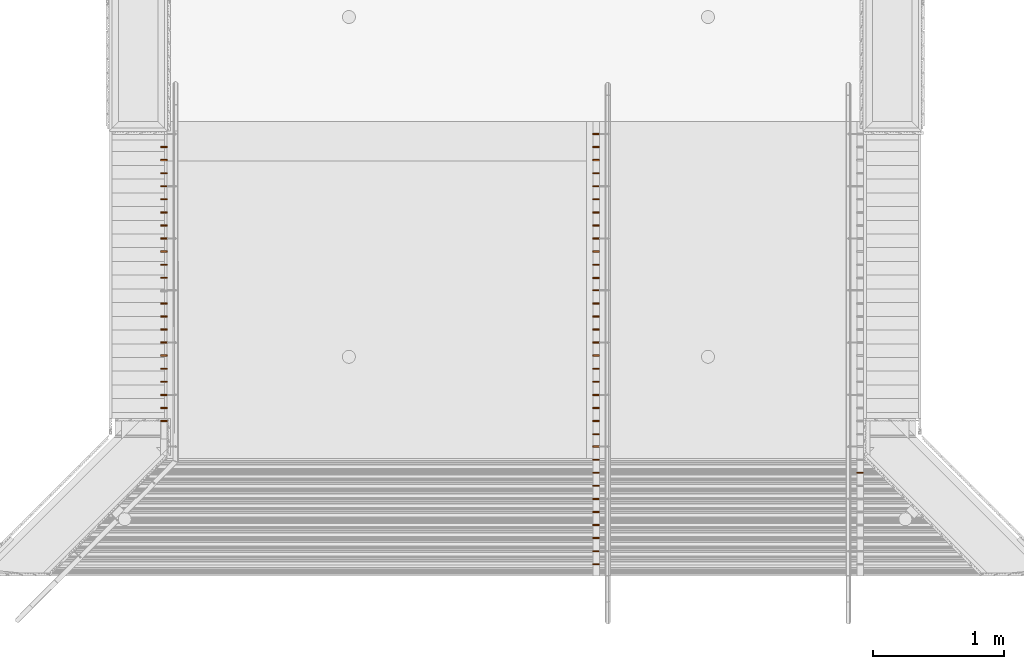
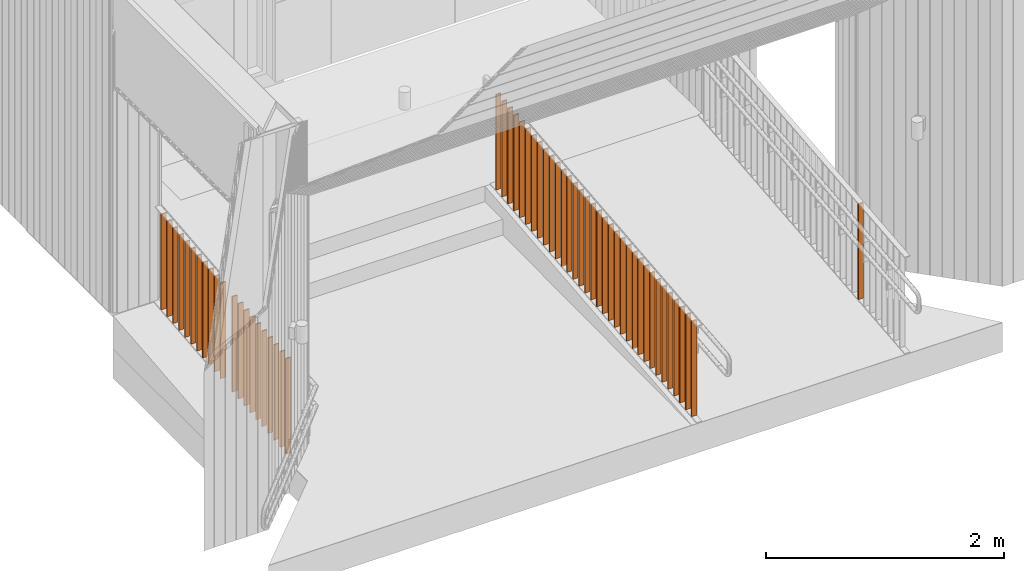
# One storey, part 361 of 418: 56 proxies, 3 elements without a shape of their own.
"""IFC2X3 building model written with IfcOpenShell, lengths in millimetres."""

from ifc_helpers import new_model, entity, si_unit, converted_unit, derived_unit, money_unit, direction, frame, origin_with_axes, place, context, subcontext, project, spatial, faceted_brep, source, transform, mapped, material, type_object, element, aggregate, save


model = new_model("IFC2X3")

# Units and contexts
model_context = context("Model", 3, precision=0.01, world=origin_with_axes(), true_north=direction((0.0, 1.0)))
body_context = subcontext(model_context, "Body", "Model", "MODEL_VIEW")
ifc_project = project(units=[si_unit("LENGTHUNIT", "METRE", prefix="MILLI"), si_unit("AREAUNIT", "SQUARE_METRE"), si_unit("VOLUMEUNIT", "CUBIC_METRE"), converted_unit("PLANEANGLEUNIT", "DEGREE", entity("IfcPlaneAngleMeasure", 0.0174532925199), si_unit("PLANEANGLEUNIT", "RADIAN"), dimensions=[0, 0, 0, 0, 0, 0, 0]), si_unit("SOLIDANGLEUNIT", "STERADIAN"), money_unit("EUR"), converted_unit("TIMEUNIT", "Year", entity("IfcTimeMeasure", 31556926.0), si_unit("TIMEUNIT", "SECOND"), dimensions=[0, 0, 1, 0, 0, 0, 0]), si_unit("MASSUNIT", "GRAM", prefix="KILO"), si_unit("THERMODYNAMICTEMPERATUREUNIT", "DEGREE_CELSIUS"), si_unit("LUMINOUSINTENSITYUNIT", "LUMEN"), si_unit("ENERGYUNIT", "JOULE", prefix="MEGA"), derived_unit("THERMALCONDUCTANCEUNIT", [(si_unit("POWERUNIT", "WATT"), 1), (si_unit("LENGTHUNIT", "METRE"), -1), (si_unit("THERMODYNAMICTEMPERATUREUNIT", "KELVIN"), -1)]), derived_unit("SPECIFICHEATCAPACITYUNIT", [(si_unit("ENERGYUNIT", "JOULE"), 1), (si_unit("MASSUNIT", "GRAM", prefix="KILO"), -1), (si_unit("THERMODYNAMICTEMPERATUREUNIT", "KELVIN"), -1)]), derived_unit("MASSDENSITYUNIT", [(si_unit("MASSUNIT", "GRAM", prefix="KILO"), 1), (si_unit("VOLUMEUNIT", "CUBIC_METRE"), -1)])], contexts=[model_context])

# Site, building, storey
site_placement = place(None, origin_with_axes())
site = spatial("IfcSite", under=ifc_project, at=site_placement, Name="Paldiski mnt 245/1, Tallinn, Harjumaa", CompositionType="COMPLEX")
building_placement = place(site_placement, origin_with_axes())
building = spatial("IfcBuilding", under=site, at=building_placement, Name="RKAS Hoone üldnimetus (kasutust iseloomustav) -> IFC Project Manager -> SOLIBRI", CompositionType="ELEMENT")
storey_placement = place(building_placement, origin_with_axes())
storey = spatial("IfcBuildingStorey", under=building, at=storey_placement, Name="Esimene korrus", CompositionType="ELEMENT", Elevation=0.0)

# Proxies
building_element_proxy_type_1 = type_object("IfcBuildingElementProxyType", Name="Railing Type", PredefinedType="NOTDEFINED")
proxy_1_placement = place(storey_placement, frame((-38790.9992191, -15230.0843011, -367.539728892), z_axis=(0.0, 0.0, 1.0), x_axis=(-0.773149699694, -0.634223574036, 0.0)))
proxy_1 = element("IfcBuildingElementProxy", 1, at=proxy_1_placement, inside=storey, type_object=building_element_proxy_type_1, Name="Trepipiire")
ifc_material = material(Name="RAL7016")
building_element_proxy_type_2 = type_object("IfcBuildingElementProxyType", Name="IfcBuildingElementProxy", PredefinedType="NOTDEFINED")
shared_shape_1 = source(origin_with_axes(), body_context, "Body", "Brep", [
    faceted_brep([(25.0, 5.0, -0.500000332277), (-25.0, 5.0, -0.500000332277), (-25.0, 5.0, 979.983322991), (25.0, 5.0, 979.983322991), (25.0, -5.0, 0.500000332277), (-25.0, -5.0, 0.500000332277), (-25.0, -5.0, 980.983323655), (25.0, -5.0, 980.983323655)], [[[0, 1, 2, 3]], [[0, 4, 5, 1]], [[1, 5, 6, 2]], [[3, 2, 6, 7]], [[4, 0, 3, 7]], [[5, 4, 7, 6]]]),
])
proxy_2_placement = place(proxy_1_placement, frame((1723.48748593, 2061.59765373, 88.3562270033), z_axis=(0.0, 0.0, 1.0), x_axis=(-0.773149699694, 0.634223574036, 0.0)))
proxy_2 = element("IfcBuildingElementProxy", 2, at=proxy_2_placement, type_object=building_element_proxy_type_2, material=ifc_material, Name="SISEPOST - 001", context=body_context, shape_type="MappedRepresentation", body=[
    mapped(shared_shape_1, transform((0.0, 0.0, 0.0), x_axis=(-1.0, 0.0, 0.0), y_axis=(0.0, -1.0, 0.0), z_axis=(0.0, 0.0, 1.0))),
])
aggregate(proxy_1, [proxy_2])

proxy_3_placement = place(storey_placement, frame((-40861.8703625, -15230.0843011, -367.539728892), z_axis=(0.0, 0.0, 1.0), x_axis=(0.773149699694, 0.634223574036, 0.0)))
proxy_3 = element("IfcBuildingElementProxy", 3, at=proxy_3_placement, inside=storey, type_object=building_element_proxy_type_1, Name="Trepipiire")
shared_shape_2 = source(origin_with_axes(), body_context, "Body", "Brep", [
    faceted_brep([(25.0, 5.0, -0.500000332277), (-25.0, 5.0, -0.500000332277), (-25.0, 5.0, 979.983322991), (25.0, 5.0, 979.983322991), (25.0, -5.0, 0.500000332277), (-25.0, -5.0, 0.500000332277), (-25.0, -5.0, 980.983323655), (25.0, -5.0, 980.983323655)], [[[0, 1, 2, 3]], [[0, 4, 5, 1]], [[1, 5, 6, 2]], [[3, 2, 6, 7]], [[4, 0, 3, 7]], [[5, 4, 7, 6]]]),
])
proxy_4_placement = place(proxy_3_placement, frame((-40.9224970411, -89.3048108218, 347.556399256), z_axis=(0.0, 0.0, 1.0), x_axis=(0.773149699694, -0.634223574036, 0.0)))
proxy_4 = element("IfcBuildingElementProxy", 4, at=proxy_4_placement, type_object=building_element_proxy_type_2, material=ifc_material, Name="SISEPOST - 001", context=body_context, shape_type="MappedRepresentation", body=[
    mapped(shared_shape_2, transform((0.0, 0.0, 0.0), x_axis=(-1.0, 0.0, 0.0), y_axis=(0.0, -1.0, 0.0), z_axis=(0.0, 0.0, 1.0))),
])
proxy_5_placement = place(proxy_3_placement, frame((-104.344854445, -166.619780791, 337.55639261), z_axis=(0.0, 0.0, 1.0), x_axis=(0.773149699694, -0.634223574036, 0.0)))
proxy_5 = element("IfcBuildingElementProxy", 5, at=proxy_5_placement, type_object=building_element_proxy_type_2, material=ifc_material, Name="SISEPOST - 001", context=body_context, shape_type="MappedRepresentation", body=[
    mapped(shared_shape_2, transform((0.0, 0.0, 0.0), x_axis=(-1.0, 0.0, 0.0), y_axis=(0.0, -1.0, 0.0), z_axis=(0.0, 0.0, 1.0))),
])
proxy_6_placement = place(proxy_3_placement, frame((-167.767211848, -243.934750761, 327.556385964), z_axis=(0.0, 0.0, 1.0), x_axis=(0.773149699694, -0.634223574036, 0.0)))
proxy_6 = element("IfcBuildingElementProxy", 6, at=proxy_6_placement, type_object=building_element_proxy_type_2, material=ifc_material, Name="SISEPOST - 001", context=body_context, shape_type="MappedRepresentation", body=[
    mapped(shared_shape_2, transform((0.0, 0.0, 0.0), x_axis=(-1.0, 0.0, 0.0), y_axis=(0.0, -1.0, 0.0), z_axis=(0.0, 0.0, 1.0))),
])
proxy_7_placement = place(proxy_3_placement, frame((-231.189569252, -321.24972073, 317.556379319), z_axis=(0.0, 0.0, 1.0), x_axis=(0.773149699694, -0.634223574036, 0.0)))
proxy_7 = element("IfcBuildingElementProxy", 7, at=proxy_7_placement, type_object=building_element_proxy_type_2, material=ifc_material, Name="SISEPOST - 001", context=body_context, shape_type="MappedRepresentation", body=[
    mapped(shared_shape_2, transform((0.0, 0.0, 0.0), x_axis=(-1.0, 0.0, 0.0), y_axis=(0.0, -1.0, 0.0), z_axis=(0.0, 0.0, 1.0))),
])
proxy_8_placement = place(proxy_3_placement, frame((-294.611926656, -398.564690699, 307.556372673), z_axis=(0.0, 0.0, 1.0), x_axis=(0.773149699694, -0.634223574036, 0.0)))
proxy_8 = element("IfcBuildingElementProxy", 8, at=proxy_8_placement, type_object=building_element_proxy_type_2, material=ifc_material, Name="SISEPOST - 001", context=body_context, shape_type="MappedRepresentation", body=[
    mapped(shared_shape_2, transform((0.0, 0.0, 0.0), x_axis=(-1.0, 0.0, 0.0), y_axis=(0.0, -1.0, 0.0), z_axis=(0.0, 0.0, 1.0))),
])
proxy_9_placement = place(proxy_3_placement, frame((-358.034284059, -475.879660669, 297.556366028), z_axis=(0.0, 0.0, 1.0), x_axis=(0.773149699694, -0.634223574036, 0.0)))
proxy_9 = element("IfcBuildingElementProxy", 9, at=proxy_9_placement, type_object=building_element_proxy_type_2, material=ifc_material, Name="SISEPOST - 001", context=body_context, shape_type="MappedRepresentation", body=[
    mapped(shared_shape_2, transform((0.0, 0.0, 0.0), x_axis=(-1.0, 0.0, 0.0), y_axis=(0.0, -1.0, 0.0), z_axis=(0.0, 0.0, 1.0))),
])
proxy_10_placement = place(proxy_3_placement, frame((-421.456641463, -553.194630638, 287.556359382), z_axis=(0.0, 0.0, 1.0), x_axis=(0.773149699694, -0.634223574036, 0.0)))
proxy_10 = element("IfcBuildingElementProxy", 10, at=proxy_10_placement, type_object=building_element_proxy_type_2, material=ifc_material, Name="SISEPOST - 001", context=body_context, shape_type="MappedRepresentation", body=[
    mapped(shared_shape_2, transform((0.0, 0.0, 0.0), x_axis=(-1.0, 0.0, 0.0), y_axis=(0.0, -1.0, 0.0), z_axis=(0.0, 0.0, 1.0))),
])
proxy_11_placement = place(proxy_3_placement, frame((-484.878998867, -630.509600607, 277.556352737), z_axis=(0.0, 0.0, 1.0), x_axis=(0.773149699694, -0.634223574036, 0.0)))
proxy_11 = element("IfcBuildingElementProxy", 11, at=proxy_11_placement, type_object=building_element_proxy_type_2, material=ifc_material, Name="SISEPOST - 001", context=body_context, shape_type="MappedRepresentation", body=[
    mapped(shared_shape_2, transform((0.0, 0.0, 0.0), x_axis=(-1.0, 0.0, 0.0), y_axis=(0.0, -1.0, 0.0), z_axis=(0.0, 0.0, 1.0))),
])
proxy_12_placement = place(proxy_3_placement, frame((-548.30135627, -707.824570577, 267.556346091), z_axis=(0.0, 0.0, 1.0), x_axis=(0.773149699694, -0.634223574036, 0.0)))
proxy_12 = element("IfcBuildingElementProxy", 12, at=proxy_12_placement, type_object=building_element_proxy_type_2, material=ifc_material, Name="SISEPOST - 001", context=body_context, shape_type="MappedRepresentation", body=[
    mapped(shared_shape_2, transform((0.0, 0.0, 0.0), x_axis=(-1.0, 0.0, 0.0), y_axis=(0.0, -1.0, 0.0), z_axis=(0.0, 0.0, 1.0))),
])
proxy_13_placement = place(proxy_3_placement, frame((-611.723713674, -785.139540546, 257.556339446), z_axis=(0.0, 0.0, 1.0), x_axis=(0.773149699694, -0.634223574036, 0.0)))
proxy_13 = element("IfcBuildingElementProxy", 13, at=proxy_13_placement, type_object=building_element_proxy_type_2, material=ifc_material, Name="SISEPOST - 001", context=body_context, shape_type="MappedRepresentation", body=[
    mapped(shared_shape_2, transform((0.0, 0.0, 0.0), x_axis=(-1.0, 0.0, 0.0), y_axis=(0.0, -1.0, 0.0), z_axis=(0.0, 0.0, 1.0))),
])
proxy_14_placement = place(proxy_3_placement, frame((-675.146071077, -862.454510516, 247.5563328), z_axis=(0.0, 0.0, 1.0), x_axis=(0.773149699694, -0.634223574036, 0.0)))
proxy_14 = element("IfcBuildingElementProxy", 14, at=proxy_14_placement, type_object=building_element_proxy_type_2, material=ifc_material, Name="SISEPOST - 001", context=body_context, shape_type="MappedRepresentation", body=[
    mapped(shared_shape_2, transform((0.0, 0.0, 0.0), x_axis=(-1.0, 0.0, 0.0), y_axis=(0.0, -1.0, 0.0), z_axis=(0.0, 0.0, 1.0))),
])
proxy_15_placement = place(proxy_3_placement, frame((-799.453891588, -1013.99185166, 227.956319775), z_axis=(0.0, 0.0, 1.0), x_axis=(0.773149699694, -0.634223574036, 0.0)))
proxy_15 = element("IfcBuildingElementProxy", 15, at=proxy_15_placement, type_object=building_element_proxy_type_2, material=ifc_material, Name="SISEPOST - 001", context=body_context, shape_type="MappedRepresentation", body=[
    mapped(shared_shape_2, transform((0.0, 0.0, 0.0), x_axis=(-1.0, 0.0, 0.0), y_axis=(0.0, -1.0, 0.0), z_axis=(0.0, 0.0, 1.0))),
])
proxy_16_placement = place(proxy_3_placement, frame((-862.876248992, -1091.30682163, 217.956313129), z_axis=(0.0, 0.0, 1.0), x_axis=(0.773149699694, -0.634223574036, 0.0)))
proxy_16 = element("IfcBuildingElementProxy", 16, at=proxy_16_placement, type_object=building_element_proxy_type_2, material=ifc_material, Name="SISEPOST - 001", context=body_context, shape_type="MappedRepresentation", body=[
    mapped(shared_shape_2, transform((0.0, 0.0, 0.0), x_axis=(-1.0, 0.0, 0.0), y_axis=(0.0, -1.0, 0.0), z_axis=(0.0, 0.0, 1.0))),
])
proxy_17_placement = place(proxy_3_placement, frame((-926.298606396, -1168.62179159, 207.956306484), z_axis=(0.0, 0.0, 1.0), x_axis=(0.773149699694, -0.634223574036, 0.0)))
proxy_17 = element("IfcBuildingElementProxy", 17, at=proxy_17_placement, type_object=building_element_proxy_type_2, material=ifc_material, Name="SISEPOST - 001", context=body_context, shape_type="MappedRepresentation", body=[
    mapped(shared_shape_2, transform((0.0, 0.0, 0.0), x_axis=(-1.0, 0.0, 0.0), y_axis=(0.0, -1.0, 0.0), z_axis=(0.0, 0.0, 1.0))),
])
proxy_18_placement = place(proxy_3_placement, frame((-989.720963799, -1245.93676156, 197.956299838), z_axis=(0.0, 0.0, 1.0), x_axis=(0.773149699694, -0.634223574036, 0.0)))
proxy_18 = element("IfcBuildingElementProxy", 18, at=proxy_18_placement, type_object=building_element_proxy_type_2, material=ifc_material, Name="SISEPOST - 001", context=body_context, shape_type="MappedRepresentation", body=[
    mapped(shared_shape_2, transform((0.0, 0.0, 0.0), x_axis=(-1.0, 0.0, 0.0), y_axis=(0.0, -1.0, 0.0), z_axis=(0.0, 0.0, 1.0))),
])
proxy_19_placement = place(proxy_3_placement, frame((-1053.1433212, -1323.25173153, 187.956293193), z_axis=(0.0, 0.0, 1.0), x_axis=(0.773149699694, -0.634223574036, 0.0)))
proxy_19 = element("IfcBuildingElementProxy", 19, at=proxy_19_placement, type_object=building_element_proxy_type_2, material=ifc_material, Name="SISEPOST - 001", context=body_context, shape_type="MappedRepresentation", body=[
    mapped(shared_shape_2, transform((0.0, 0.0, 0.0), x_axis=(-1.0, 0.0, 0.0), y_axis=(0.0, -1.0, 0.0), z_axis=(0.0, 0.0, 1.0))),
])
proxy_20_placement = place(proxy_3_placement, frame((-1116.56567861, -1400.5667015, 177.956286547), z_axis=(0.0, 0.0, 1.0), x_axis=(0.773149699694, -0.634223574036, 0.0)))
proxy_20 = element("IfcBuildingElementProxy", 20, at=proxy_20_placement, type_object=building_element_proxy_type_2, material=ifc_material, Name="SISEPOST - 001", context=body_context, shape_type="MappedRepresentation", body=[
    mapped(shared_shape_2, transform((0.0, 0.0, 0.0), x_axis=(-1.0, 0.0, 0.0), y_axis=(0.0, -1.0, 0.0), z_axis=(0.0, 0.0, 1.0))),
])
proxy_21_placement = place(proxy_3_placement, frame((-1179.98803601, -1477.88167147, 167.956279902), z_axis=(0.0, 0.0, 1.0), x_axis=(0.773149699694, -0.634223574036, 0.0)))
proxy_21 = element("IfcBuildingElementProxy", 21, at=proxy_21_placement, type_object=building_element_proxy_type_2, material=ifc_material, Name="SISEPOST - 001", context=body_context, shape_type="MappedRepresentation", body=[
    mapped(shared_shape_2, transform((0.0, 0.0, 0.0), x_axis=(-1.0, 0.0, 0.0), y_axis=(0.0, -1.0, 0.0), z_axis=(0.0, 0.0, 1.0))),
])
proxy_22_placement = place(proxy_3_placement, frame((-1243.41039341, -1555.19664144, 157.956273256), z_axis=(0.0, 0.0, 1.0), x_axis=(0.773149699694, -0.634223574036, 0.0)))
proxy_22 = element("IfcBuildingElementProxy", 22, at=proxy_22_placement, type_object=building_element_proxy_type_2, material=ifc_material, Name="SISEPOST - 001", context=body_context, shape_type="MappedRepresentation", body=[
    mapped(shared_shape_2, transform((0.0, 0.0, 0.0), x_axis=(-1.0, 0.0, 0.0), y_axis=(0.0, -1.0, 0.0), z_axis=(0.0, 0.0, 1.0))),
])
proxy_23_placement = place(proxy_3_placement, frame((-1306.83275082, -1632.51161141, 147.956266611), z_axis=(0.0, 0.0, 1.0), x_axis=(0.773149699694, -0.634223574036, 0.0)))
proxy_23 = element("IfcBuildingElementProxy", 23, at=proxy_23_placement, type_object=building_element_proxy_type_2, material=ifc_material, Name="SISEPOST - 001", context=body_context, shape_type="MappedRepresentation", body=[
    mapped(shared_shape_2, transform((0.0, 0.0, 0.0), x_axis=(-1.0, 0.0, 0.0), y_axis=(0.0, -1.0, 0.0), z_axis=(0.0, 0.0, 1.0))),
])
proxy_24_placement = place(proxy_3_placement, frame((-1370.25510822, -1709.82658138, 137.956259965), z_axis=(0.0, 0.0, 1.0), x_axis=(0.773149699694, -0.634223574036, 0.0)))
proxy_24 = element("IfcBuildingElementProxy", 24, at=proxy_24_placement, type_object=building_element_proxy_type_2, material=ifc_material, Name="SISEPOST - 001", context=body_context, shape_type="MappedRepresentation", body=[
    mapped(shared_shape_2, transform((0.0, 0.0, 0.0), x_axis=(-1.0, 0.0, 0.0), y_axis=(0.0, -1.0, 0.0), z_axis=(0.0, 0.0, 1.0))),
])
proxy_25_placement = place(proxy_3_placement, frame((-1433.67746562, -1787.14155135, 127.95625332), z_axis=(0.0, 0.0, 1.0), x_axis=(0.773149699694, -0.634223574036, 0.0)))
proxy_25 = element("IfcBuildingElementProxy", 25, at=proxy_25_placement, type_object=building_element_proxy_type_2, material=ifc_material, Name="SISEPOST - 001", context=body_context, shape_type="MappedRepresentation", body=[
    mapped(shared_shape_2, transform((0.0, 0.0, 0.0), x_axis=(-1.0, 0.0, 0.0), y_axis=(0.0, -1.0, 0.0), z_axis=(0.0, 0.0, 1.0))),
])
proxy_26_placement = place(proxy_3_placement, frame((-1557.98528614, -1938.67889249, 108.356240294), z_axis=(0.0, 0.0, 1.0), x_axis=(0.773149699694, -0.634223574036, 0.0)))
proxy_26 = element("IfcBuildingElementProxy", 26, at=proxy_26_placement, type_object=building_element_proxy_type_2, material=ifc_material, Name="SISEPOST - 001", context=body_context, shape_type="MappedRepresentation", body=[
    mapped(shared_shape_2, transform((0.0, 0.0, 0.0), x_axis=(-1.0, 0.0, 0.0), y_axis=(0.0, -1.0, 0.0), z_axis=(0.0, 0.0, 1.0))),
])
proxy_27_placement = place(proxy_3_placement, frame((-1621.40764354, -2015.99386246, 98.3562336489), z_axis=(0.0, 0.0, 1.0), x_axis=(0.773149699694, -0.634223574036, 0.0)))
proxy_27 = element("IfcBuildingElementProxy", 27, at=proxy_27_placement, type_object=building_element_proxy_type_2, material=ifc_material, Name="SISEPOST - 001", context=body_context, shape_type="MappedRepresentation", body=[
    mapped(shared_shape_2, transform((0.0, 0.0, 0.0), x_axis=(-1.0, 0.0, 0.0), y_axis=(0.0, -1.0, 0.0), z_axis=(0.0, 0.0, 1.0))),
])
proxy_28_placement = place(proxy_3_placement, frame((-1684.83000094, -2093.30883243, 88.3562270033), z_axis=(0.0, 0.0, 1.0), x_axis=(0.773149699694, -0.634223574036, 0.0)))
proxy_28 = element("IfcBuildingElementProxy", 28, at=proxy_28_placement, type_object=building_element_proxy_type_2, material=ifc_material, Name="SISEPOST - 001", context=body_context, shape_type="MappedRepresentation", body=[
    mapped(shared_shape_2, transform((0.0, 0.0, 0.0), x_axis=(-1.0, 0.0, 0.0), y_axis=(0.0, -1.0, 0.0), z_axis=(0.0, 0.0, 1.0))),
])
proxy_29_placement = place(proxy_3_placement, frame((-1748.25235835, -2170.6238024, 78.3562203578), z_axis=(0.0, 0.0, 1.0), x_axis=(0.773149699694, -0.634223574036, 0.0)))
proxy_29 = element("IfcBuildingElementProxy", 29, at=proxy_29_placement, type_object=building_element_proxy_type_2, material=ifc_material, Name="SISEPOST - 001", context=body_context, shape_type="MappedRepresentation", body=[
    mapped(shared_shape_2, transform((0.0, 0.0, 0.0), x_axis=(-1.0, 0.0, 0.0), y_axis=(0.0, -1.0, 0.0), z_axis=(0.0, 0.0, 1.0))),
])
proxy_30_placement = place(proxy_3_placement, frame((-1811.67471575, -2247.93877237, 68.3562137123), z_axis=(0.0, 0.0, 1.0), x_axis=(0.773149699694, -0.634223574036, 0.0)))
proxy_30 = element("IfcBuildingElementProxy", 30, at=proxy_30_placement, type_object=building_element_proxy_type_2, material=ifc_material, Name="SISEPOST - 001", context=body_context, shape_type="MappedRepresentation", body=[
    mapped(shared_shape_2, transform((0.0, 0.0, 0.0), x_axis=(-1.0, 0.0, 0.0), y_axis=(0.0, -1.0, 0.0), z_axis=(0.0, 0.0, 1.0))),
])
proxy_31_placement = place(proxy_3_placement, frame((-1875.09707315, -2325.25374234, 58.3562070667), z_axis=(0.0, 0.0, 1.0), x_axis=(0.773149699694, -0.634223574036, 0.0)))
proxy_31 = element("IfcBuildingElementProxy", 31, at=proxy_31_placement, type_object=building_element_proxy_type_2, material=ifc_material, Name="SISEPOST - 001", context=body_context, shape_type="MappedRepresentation", body=[
    mapped(shared_shape_2, transform((0.0, 0.0, 0.0), x_axis=(-1.0, 0.0, 0.0), y_axis=(0.0, -1.0, 0.0), z_axis=(0.0, 0.0, 1.0))),
])
proxy_32_placement = place(proxy_3_placement, frame((-1938.51943056, -2402.56871231, 48.3562004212), z_axis=(0.0, 0.0, 1.0), x_axis=(0.773149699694, -0.634223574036, 0.0)))
proxy_32 = element("IfcBuildingElementProxy", 32, at=proxy_32_placement, type_object=building_element_proxy_type_2, material=ifc_material, Name="SISEPOST - 001", context=body_context, shape_type="MappedRepresentation", body=[
    mapped(shared_shape_2, transform((0.0, 0.0, 0.0), x_axis=(-1.0, 0.0, 0.0), y_axis=(0.0, -1.0, 0.0), z_axis=(0.0, 0.0, 1.0))),
])
proxy_33_placement = place(proxy_3_placement, frame((-2001.94178796, -2479.88368228, 38.3561937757), z_axis=(0.0, 0.0, 1.0), x_axis=(0.773149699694, -0.634223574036, 0.0)))
proxy_33 = element("IfcBuildingElementProxy", 33, at=proxy_33_placement, type_object=building_element_proxy_type_2, material=ifc_material, Name="SISEPOST - 001", context=body_context, shape_type="MappedRepresentation", body=[
    mapped(shared_shape_2, transform((0.0, 0.0, 0.0), x_axis=(-1.0, 0.0, 0.0), y_axis=(0.0, -1.0, 0.0), z_axis=(0.0, 0.0, 1.0))),
])
proxy_34_placement = place(proxy_3_placement, frame((-2065.36414536, -2557.19865224, 28.3561871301), z_axis=(0.0, 0.0, 1.0), x_axis=(0.773149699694, -0.634223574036, 0.0)))
proxy_34 = element("IfcBuildingElementProxy", 34, at=proxy_34_placement, type_object=building_element_proxy_type_2, material=ifc_material, Name="SISEPOST - 001", context=body_context, shape_type="MappedRepresentation", body=[
    mapped(shared_shape_2, transform((0.0, 0.0, 0.0), x_axis=(-1.0, 0.0, 0.0), y_axis=(0.0, -1.0, 0.0), z_axis=(0.0, 0.0, 1.0))),
])
proxy_35_placement = place(proxy_3_placement, frame((-2128.78650277, -2634.51362221, 18.3561804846), z_axis=(0.0, 0.0, 1.0), x_axis=(0.773149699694, -0.634223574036, 0.0)))
proxy_35 = element("IfcBuildingElementProxy", 35, at=proxy_35_placement, type_object=building_element_proxy_type_2, material=ifc_material, Name="SISEPOST - 001", context=body_context, shape_type="MappedRepresentation", body=[
    mapped(shared_shape_2, transform((0.0, 0.0, 0.0), x_axis=(-1.0, 0.0, 0.0), y_axis=(0.0, -1.0, 0.0), z_axis=(0.0, 0.0, 1.0))),
])
shared_shape_3 = source(origin_with_axes(), body_context, "Body", "Brep", [
    faceted_brep([(25.0, 5.0, -0.500000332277), (-25.0, 5.0, -0.500000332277), (-25.0, 5.0, 989.499999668), (25.0, 5.0, 989.499999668), (25.0, -5.0, 0.500000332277), (-25.0, -5.0, 0.500000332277), (-25.0, -5.0, 990.500000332), (25.0, -5.0, 990.500000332)], [[[0, 1, 2, 3]], [[0, 4, 5, 1]], [[1, 5, 6, 2]], [[3, 2, 6, 7]], [[4, 0, 3, 7]], [[5, 4, 7, 6]]]),
])
proxy_36_placement = place(proxy_3_placement, frame((-739.202652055, -940.542630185, 227.939649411), z_axis=(0.0, 0.0, 1.0), x_axis=(0.773149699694, -0.634223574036, 0.0)))
proxy_36 = element("IfcBuildingElementProxy", 36, at=proxy_36_placement, type_object=building_element_proxy_type_2, material=ifc_material, Name="SISEPOST - 001", context=body_context, shape_type="MappedRepresentation", body=[
    mapped(shared_shape_3, transform((0.0, 0.0, 0.0), x_axis=(-1.0, 0.0, 0.0), y_axis=(0.0, -1.0, 0.0), z_axis=(0.0, 0.0, 1.0))),
])
proxy_37_placement = place(proxy_3_placement, frame((-1497.7340466, -1865.22967102, 108.339569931), z_axis=(0.0, 0.0, 1.0), x_axis=(0.773149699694, -0.634223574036, 0.0)))
proxy_37 = element("IfcBuildingElementProxy", 37, at=proxy_37_placement, type_object=building_element_proxy_type_2, material=ifc_material, Name="SISEPOST - 001", context=body_context, shape_type="MappedRepresentation", body=[
    mapped(shared_shape_3, transform((0.0, 0.0, 0.0), x_axis=(-1.0, 0.0, 0.0), y_axis=(0.0, -1.0, 0.0), z_axis=(0.0, 0.0, 1.0))),
])
aggregate(proxy_3, [proxy_4, proxy_5, proxy_6, proxy_7, proxy_8, proxy_9, proxy_10, proxy_11, proxy_12, proxy_13, proxy_14, proxy_36, proxy_15, proxy_16, proxy_17, proxy_18, proxy_19, proxy_20, proxy_21, proxy_22, proxy_23, proxy_24, proxy_25, proxy_37, proxy_26, proxy_27, proxy_28, proxy_29, proxy_30, proxy_31, proxy_32, proxy_33, proxy_34, proxy_35])

proxy_38_placement = place(storey_placement, frame((-44169.0000164, -15330.0843011, -249.601965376), z_axis=(0.0, 0.0, 1.0), x_axis=(-0.773149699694, -0.634223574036, 0.0)))
proxy_38 = element("IfcBuildingElementProxy", 38, at=proxy_38_placement, inside=storey, type_object=building_element_proxy_type_1, Name="Trepipiire")
shared_shape_4 = source(origin_with_axes(), body_context, "Body", "Brep", [
    faceted_brep([(25.0, 5.0, -0.500098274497), (-25.0, 5.0, -0.500098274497), (-25.0, 5.0, 979.983225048), (25.0, 5.0, 979.983225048), (25.0, -5.0, 0.500098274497), (-25.0, -5.0, 0.500098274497), (-25.0, -5.0, 980.983421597), (25.0, -5.0, 980.983421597)], [[[0, 1, 2, 3]], [[0, 4, 5, 1]], [[1, 5, 6, 2]], [[3, 2, 6, 7]], [[4, 0, 3, 7]], [[5, 4, 7, 6]]]),
])
proxy_39_placement = place(proxy_38_placement, frame((40.9224970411, 89.3048108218, 219.94064646), z_axis=(0.0, 0.0, 1.0), x_axis=(-0.773149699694, 0.634223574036, 0.0)))
proxy_39 = element("IfcBuildingElementProxy", 39, at=proxy_39_placement, type_object=building_element_proxy_type_2, material=ifc_material, Name="SISEPOST - 001", context=body_context, shape_type="MappedRepresentation", body=[
    mapped(shared_shape_4, transform((0.0, 0.0, 0.0), x_axis=(-1.0, 0.0, 0.0), y_axis=(0.0, -1.0, 0.0), z_axis=(0.0, 0.0, 1.0))),
])
proxy_40_placement = place(proxy_38_placement, frame((104.344854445, 166.619780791, 209.93868097), z_axis=(0.0, 0.0, 1.0), x_axis=(-0.773149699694, 0.634223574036, 0.0)))
proxy_40 = element("IfcBuildingElementProxy", 40, at=proxy_40_placement, type_object=building_element_proxy_type_2, material=ifc_material, Name="SISEPOST - 001", context=body_context, shape_type="MappedRepresentation", body=[
    mapped(shared_shape_4, transform((0.0, 0.0, 0.0), x_axis=(-1.0, 0.0, 0.0), y_axis=(0.0, -1.0, 0.0), z_axis=(0.0, 0.0, 1.0))),
])
proxy_41_placement = place(proxy_38_placement, frame((167.767211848, 243.934750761, 199.93671548), z_axis=(0.0, 0.0, 1.0), x_axis=(-0.773149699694, 0.634223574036, 0.0)))
proxy_41 = element("IfcBuildingElementProxy", 41, at=proxy_41_placement, type_object=building_element_proxy_type_2, material=ifc_material, Name="SISEPOST - 001", context=body_context, shape_type="MappedRepresentation", body=[
    mapped(shared_shape_4, transform((0.0, 0.0, 0.0), x_axis=(-1.0, 0.0, 0.0), y_axis=(0.0, -1.0, 0.0), z_axis=(0.0, 0.0, 1.0))),
])
proxy_42_placement = place(proxy_38_placement, frame((231.189569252, 321.24972073, 189.93474999), z_axis=(0.0, 0.0, 1.0), x_axis=(-0.773149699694, 0.634223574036, 0.0)))
proxy_42 = element("IfcBuildingElementProxy", 42, at=proxy_42_placement, type_object=building_element_proxy_type_2, material=ifc_material, Name="SISEPOST - 001", context=body_context, shape_type="MappedRepresentation", body=[
    mapped(shared_shape_4, transform((0.0, 0.0, 0.0), x_axis=(-1.0, 0.0, 0.0), y_axis=(0.0, -1.0, 0.0), z_axis=(0.0, 0.0, 1.0))),
])
proxy_43_placement = place(proxy_38_placement, frame((294.611926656, 398.564690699, 179.9327845), z_axis=(0.0, 0.0, 1.0), x_axis=(-0.773149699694, 0.634223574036, 0.0)))
proxy_43 = element("IfcBuildingElementProxy", 43, at=proxy_43_placement, type_object=building_element_proxy_type_2, material=ifc_material, Name="SISEPOST - 001", context=body_context, shape_type="MappedRepresentation", body=[
    mapped(shared_shape_4, transform((0.0, 0.0, 0.0), x_axis=(-1.0, 0.0, 0.0), y_axis=(0.0, -1.0, 0.0), z_axis=(0.0, 0.0, 1.0))),
])
proxy_44_placement = place(proxy_38_placement, frame((358.034284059, 475.879660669, 169.93081901), z_axis=(0.0, 0.0, 1.0), x_axis=(-0.773149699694, 0.634223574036, 0.0)))
proxy_44 = element("IfcBuildingElementProxy", 44, at=proxy_44_placement, type_object=building_element_proxy_type_2, material=ifc_material, Name="SISEPOST - 001", context=body_context, shape_type="MappedRepresentation", body=[
    mapped(shared_shape_4, transform((0.0, 0.0, 0.0), x_axis=(-1.0, 0.0, 0.0), y_axis=(0.0, -1.0, 0.0), z_axis=(0.0, 0.0, 1.0))),
])
proxy_45_placement = place(proxy_38_placement, frame((421.456641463, 553.194630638, 159.92885352), z_axis=(0.0, 0.0, 1.0), x_axis=(-0.773149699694, 0.634223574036, 0.0)))
proxy_45 = element("IfcBuildingElementProxy", 45, at=proxy_45_placement, type_object=building_element_proxy_type_2, material=ifc_material, Name="SISEPOST - 001", context=body_context, shape_type="MappedRepresentation", body=[
    mapped(shared_shape_4, transform((0.0, 0.0, 0.0), x_axis=(-1.0, 0.0, 0.0), y_axis=(0.0, -1.0, 0.0), z_axis=(0.0, 0.0, 1.0))),
])
proxy_46_placement = place(proxy_38_placement, frame((484.878998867, 630.509600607, 149.92688803), z_axis=(0.0, 0.0, 1.0), x_axis=(-0.773149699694, 0.634223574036, 0.0)))
proxy_46 = element("IfcBuildingElementProxy", 46, at=proxy_46_placement, type_object=building_element_proxy_type_2, material=ifc_material, Name="SISEPOST - 001", context=body_context, shape_type="MappedRepresentation", body=[
    mapped(shared_shape_4, transform((0.0, 0.0, 0.0), x_axis=(-1.0, 0.0, 0.0), y_axis=(0.0, -1.0, 0.0), z_axis=(0.0, 0.0, 1.0))),
])
proxy_47_placement = place(proxy_38_placement, frame((548.30135627, 707.824570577, 139.92492254), z_axis=(0.0, 0.0, 1.0), x_axis=(-0.773149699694, 0.634223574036, 0.0)))
proxy_47 = element("IfcBuildingElementProxy", 47, at=proxy_47_placement, type_object=building_element_proxy_type_2, material=ifc_material, Name="SISEPOST - 001", context=body_context, shape_type="MappedRepresentation", body=[
    mapped(shared_shape_4, transform((0.0, 0.0, 0.0), x_axis=(-1.0, 0.0, 0.0), y_axis=(0.0, -1.0, 0.0), z_axis=(0.0, 0.0, 1.0))),
])
proxy_48_placement = place(proxy_38_placement, frame((611.723713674, 785.139540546, 129.92295705), z_axis=(0.0, 0.0, 1.0), x_axis=(-0.773149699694, 0.634223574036, 0.0)))
proxy_48 = element("IfcBuildingElementProxy", 48, at=proxy_48_placement, type_object=building_element_proxy_type_2, material=ifc_material, Name="SISEPOST - 001", context=body_context, shape_type="MappedRepresentation", body=[
    mapped(shared_shape_4, transform((0.0, 0.0, 0.0), x_axis=(-1.0, 0.0, 0.0), y_axis=(0.0, -1.0, 0.0), z_axis=(0.0, 0.0, 1.0))),
])
proxy_49_placement = place(proxy_38_placement, frame((675.146071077, 862.454510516, 119.92099156), z_axis=(0.0, 0.0, 1.0), x_axis=(-0.773149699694, 0.634223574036, 0.0)))
proxy_49 = element("IfcBuildingElementProxy", 49, at=proxy_49_placement, type_object=building_element_proxy_type_2, material=ifc_material, Name="SISEPOST - 001", context=body_context, shape_type="MappedRepresentation", body=[
    mapped(shared_shape_4, transform((0.0, 0.0, 0.0), x_axis=(-1.0, 0.0, 0.0), y_axis=(0.0, -1.0, 0.0), z_axis=(0.0, 0.0, 1.0))),
])
proxy_50_placement = place(proxy_38_placement, frame((799.453891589, 1013.99185166, 100.3171392), z_axis=(0.0, 0.0, 1.0), x_axis=(-0.773149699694, 0.634223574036, 0.0)))
proxy_50 = element("IfcBuildingElementProxy", 50, at=proxy_50_placement, type_object=building_element_proxy_type_2, material=ifc_material, Name="SISEPOST - 001", context=body_context, shape_type="MappedRepresentation", body=[
    mapped(shared_shape_4, transform((0.0, 0.0, 0.0), x_axis=(-1.0, 0.0, 0.0), y_axis=(0.0, -1.0, 0.0), z_axis=(0.0, 0.0, 1.0))),
])
proxy_51_placement = place(proxy_38_placement, frame((862.876248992, 1091.30682162, 90.3151737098), z_axis=(0.0, 0.0, 1.0), x_axis=(-0.773149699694, 0.634223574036, 0.0)))
proxy_51 = element("IfcBuildingElementProxy", 51, at=proxy_51_placement, type_object=building_element_proxy_type_2, material=ifc_material, Name="SISEPOST - 001", context=body_context, shape_type="MappedRepresentation", body=[
    mapped(shared_shape_4, transform((0.0, 0.0, 0.0), x_axis=(-1.0, 0.0, 0.0), y_axis=(0.0, -1.0, 0.0), z_axis=(0.0, 0.0, 1.0))),
])
proxy_52_placement = place(proxy_38_placement, frame((926.298606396, 1168.62179159, 80.3132082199), z_axis=(0.0, 0.0, 1.0), x_axis=(-0.773149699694, 0.634223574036, 0.0)))
proxy_52 = element("IfcBuildingElementProxy", 52, at=proxy_52_placement, type_object=building_element_proxy_type_2, material=ifc_material, Name="SISEPOST - 001", context=body_context, shape_type="MappedRepresentation", body=[
    mapped(shared_shape_4, transform((0.0, 0.0, 0.0), x_axis=(-1.0, 0.0, 0.0), y_axis=(0.0, -1.0, 0.0), z_axis=(0.0, 0.0, 1.0))),
])
proxy_53_placement = place(proxy_38_placement, frame((989.720963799, 1245.93676156, 70.3112427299), z_axis=(0.0, 0.0, 1.0), x_axis=(-0.773149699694, 0.634223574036, 0.0)))
proxy_53 = element("IfcBuildingElementProxy", 53, at=proxy_53_placement, type_object=building_element_proxy_type_2, material=ifc_material, Name="SISEPOST - 001", context=body_context, shape_type="MappedRepresentation", body=[
    mapped(shared_shape_4, transform((0.0, 0.0, 0.0), x_axis=(-1.0, 0.0, 0.0), y_axis=(0.0, -1.0, 0.0), z_axis=(0.0, 0.0, 1.0))),
])
proxy_54_placement = place(proxy_38_placement, frame((1053.1433212, 1323.25173153, 60.30927724), z_axis=(0.0, 0.0, 1.0), x_axis=(-0.773149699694, 0.634223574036, 0.0)))
proxy_54 = element("IfcBuildingElementProxy", 54, at=proxy_54_placement, type_object=building_element_proxy_type_2, material=ifc_material, Name="SISEPOST - 001", context=body_context, shape_type="MappedRepresentation", body=[
    mapped(shared_shape_4, transform((0.0, 0.0, 0.0), x_axis=(-1.0, 0.0, 0.0), y_axis=(0.0, -1.0, 0.0), z_axis=(0.0, 0.0, 1.0))),
])
proxy_55_placement = place(proxy_38_placement, frame((1116.56567861, 1400.5667015, 50.30731175), z_axis=(0.0, 0.0, 1.0), x_axis=(-0.773149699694, 0.634223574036, 0.0)))
proxy_55 = element("IfcBuildingElementProxy", 55, at=proxy_55_placement, type_object=building_element_proxy_type_2, material=ifc_material, Name="SISEPOST - 001", context=body_context, shape_type="MappedRepresentation", body=[
    mapped(shared_shape_4, transform((0.0, 0.0, 0.0), x_axis=(-1.0, 0.0, 0.0), y_axis=(0.0, -1.0, 0.0), z_axis=(0.0, 0.0, 1.0))),
])
proxy_56_placement = place(proxy_38_placement, frame((1179.98803601, 1477.88167147, 40.3053462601), z_axis=(0.0, 0.0, 1.0), x_axis=(-0.773149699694, 0.634223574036, 0.0)))
proxy_56 = element("IfcBuildingElementProxy", 56, at=proxy_56_placement, type_object=building_element_proxy_type_2, material=ifc_material, Name="SISEPOST - 001", context=body_context, shape_type="MappedRepresentation", body=[
    mapped(shared_shape_4, transform((0.0, 0.0, 0.0), x_axis=(-1.0, 0.0, 0.0), y_axis=(0.0, -1.0, 0.0), z_axis=(0.0, 0.0, 1.0))),
])
proxy_57_placement = place(proxy_38_placement, frame((1243.41039341, 1555.19664144, 30.3033807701), z_axis=(0.0, 0.0, 1.0), x_axis=(-0.773149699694, 0.634223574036, 0.0)))
proxy_57 = element("IfcBuildingElementProxy", 57, at=proxy_57_placement, type_object=building_element_proxy_type_2, material=ifc_material, Name="SISEPOST - 001", context=body_context, shape_type="MappedRepresentation", body=[
    mapped(shared_shape_4, transform((0.0, 0.0, 0.0), x_axis=(-1.0, 0.0, 0.0), y_axis=(0.0, -1.0, 0.0), z_axis=(0.0, 0.0, 1.0))),
])
proxy_58_placement = place(proxy_38_placement, frame((1306.83275082, 1632.51161141, 20.3014152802), z_axis=(0.0, 0.0, 1.0), x_axis=(-0.773149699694, 0.634223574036, 0.0)))
proxy_58 = element("IfcBuildingElementProxy", 58, at=proxy_58_placement, type_object=building_element_proxy_type_2, material=ifc_material, Name="SISEPOST - 001", context=body_context, shape_type="MappedRepresentation", body=[
    mapped(shared_shape_4, transform((0.0, 0.0, 0.0), x_axis=(-1.0, 0.0, 0.0), y_axis=(0.0, -1.0, 0.0), z_axis=(0.0, 0.0, 1.0))),
])
proxy_59_placement = place(proxy_38_placement, frame((1370.25510822, 1709.82658138, 10.2994497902), z_axis=(0.0, 0.0, 1.0), x_axis=(-0.773149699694, 0.634223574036, 0.0)))
proxy_59 = element("IfcBuildingElementProxy", 59, at=proxy_59_placement, type_object=building_element_proxy_type_2, material=ifc_material, Name="SISEPOST - 001", context=body_context, shape_type="MappedRepresentation", body=[
    mapped(shared_shape_4, transform((0.0, 0.0, 0.0), x_axis=(-1.0, 0.0, 0.0), y_axis=(0.0, -1.0, 0.0), z_axis=(0.0, 0.0, 1.0))),
])
aggregate(proxy_38, [proxy_39, proxy_40, proxy_41, proxy_42, proxy_43, proxy_44, proxy_45, proxy_46, proxy_47, proxy_48, proxy_49, proxy_50, proxy_51, proxy_52, proxy_53, proxy_54, proxy_55, proxy_56, proxy_57, proxy_58, proxy_59])

save(model, "model.ifc")
